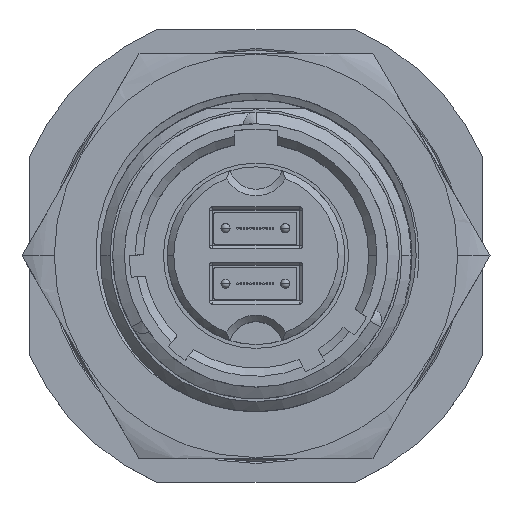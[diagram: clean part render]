
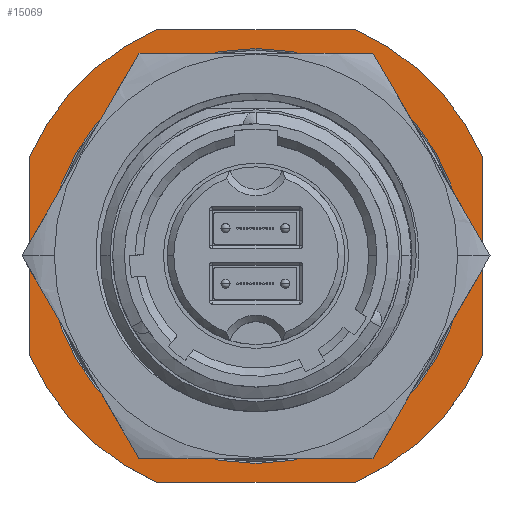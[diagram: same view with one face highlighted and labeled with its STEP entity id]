
A CAD part, top view. The second image highlights one B-rep face of the part: STEP entity #15069.
In plain terms, the highlighted planar face has unit normal (0, 0, 1).
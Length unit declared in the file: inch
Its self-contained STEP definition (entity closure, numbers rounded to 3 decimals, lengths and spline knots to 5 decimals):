
#491 = CIRCLE ( 'NONE', #16750, 0.75 ) ;
#1068 = ORIENTED_EDGE ( 'NONE', *, *, #10394, .F. ) ;
#1531 = CIRCLE ( 'NONE', #24158, 0.75 ) ;
#1766 = CARTESIAN_POINT ( 'NONE',  ( -0.687, 0.30088, -0.915 ) ) ;
#1817 = LINE ( 'NONE', #20841, #7323 ) ;
#1897 = CARTESIAN_POINT ( 'NONE',  ( -0.687, -0.30088, -0.915 ) ) ;
#3203 = VERTEX_POINT ( 'NONE', #15100 ) ;
#3383 = ORIENTED_EDGE ( 'NONE', *, *, #14875, .F. ) ;
#4247 = LINE ( 'NONE', #15939, #20625 ) ;
#4463 = DIRECTION ( 'NONE',  ( -1., 0., 0. ) ) ;
#4915 = ORIENTED_EDGE ( 'NONE', *, *, #22770, .F. ) ;
#5264 = ORIENTED_EDGE ( 'NONE', *, *, #10619, .F. ) ;
#5276 = CARTESIAN_POINT ( 'NONE',  ( -0.30088, -0.687, -0.915 ) ) ;
#5352 = CARTESIAN_POINT ( 'NONE',  ( 0., 0., -0.915 ) ) ;
#5605 = DIRECTION ( 'NONE',  ( -1., 0., 0. ) ) ;
#5991 = LINE ( 'NONE', #1766, #16949 ) ;
#6040 = FACE_OUTER_BOUND ( 'NONE', #14633, .T. ) ;
#6205 = AXIS2_PLACEMENT_3D ( 'NONE', #23334, #8186, #4463 ) ;
#6484 = VERTEX_POINT ( 'NONE', #1897 ) ;
#6755 = CARTESIAN_POINT ( 'NONE',  ( 0., 0., -0.915 ) ) ;
#7323 = VECTOR ( 'NONE', #9392, 39.37008 ) ;
#7427 = VERTEX_POINT ( 'NONE', #5276 ) ;
#8151 = DIRECTION ( 'NONE',  ( 0., 0., -1. ) ) ;
#8186 = DIRECTION ( 'NONE',  ( 0., 0., -1. ) ) ;
#8265 = CARTESIAN_POINT ( 'NONE',  ( 0., 0., -0.915 ) ) ;
#8463 = ORIENTED_EDGE ( 'NONE', *, *, #12351, .F. ) ;
#8828 = VERTEX_POINT ( 'NONE', #18805 ) ;
#9080 = CARTESIAN_POINT ( 'NONE',  ( 0.687, 0.30088, -0.915 ) ) ;
#9163 = CIRCLE ( 'NONE', #21077, 0.6297 ) ;
#9392 = DIRECTION ( 'NONE',  ( 1., 0., 0. ) ) ;
#9611 = VECTOR ( 'NONE', #20513, 39.37008 ) ;
#9720 = DIRECTION ( 'NONE',  ( 0., 1., 0. ) ) ;
#10378 = CARTESIAN_POINT ( 'NONE',  ( -0.6297, 0., -0.915 ) ) ;
#10394 = EDGE_CURVE ( 'NONE', #8828, #20359, #11583, .T. ) ;
#10539 = DIRECTION ( 'NONE',  ( 0., 0., -1. ) ) ;
#10619 = EDGE_CURVE ( 'NONE', #14859, #3203, #491, .T. ) ;
#10634 = EDGE_CURVE ( 'NONE', #18532, #14859, #11070, .T. ) ;
#10904 = AXIS2_PLACEMENT_3D ( 'NONE', #5352, #13324, #5605 ) ;
#11070 = LINE ( 'NONE', #9080, #9611 ) ;
#11583 = CIRCLE ( 'NONE', #19931, 0.75 ) ;
#11918 = CARTESIAN_POINT ( 'NONE',  ( 0.687, -0.30088, -0.915 ) ) ;
#12219 = DIRECTION ( 'NONE',  ( 0., 0., -1. ) ) ;
#12351 = EDGE_CURVE ( 'NONE', #20359, #21792, #1817, .T. ) ;
#12452 = CARTESIAN_POINT ( 'NONE',  ( 0., 0., -0.915 ) ) ;
#12564 = EDGE_CURVE ( 'NONE', #15175, #19831, #22805, .T. ) ;
#12782 = DIRECTION ( 'NONE',  ( -1., 0., 0. ) ) ;
#13324 = DIRECTION ( 'NONE',  ( 0., 0., -1. ) ) ;
#13668 = CARTESIAN_POINT ( 'NONE',  ( 0.6297, 0., -0.915 ) ) ;
#13736 = ORIENTED_EDGE ( 'NONE', *, *, #10634, .F. ) ;
#14306 = EDGE_CURVE ( 'NONE', #6484, #8828, #5991, .T. ) ;
#14536 = CIRCLE ( 'NONE', #6205, 0.75 ) ;
#14633 = EDGE_LOOP ( 'NONE', ( #1068, #17241, #4915, #22827, #5264, #13736, #3383, #8463 ) ) ;
#14859 = VERTEX_POINT ( 'NONE', #11918 ) ;
#14875 = EDGE_CURVE ( 'NONE', #21792, #18532, #14536, .T. ) ;
#14912 = DIRECTION ( 'NONE',  ( 0., 0., -1. ) ) ;
#14996 = CARTESIAN_POINT ( 'NONE',  ( -0.30088, 0.687, -0.915 ) ) ;
#15069 = ADVANCED_FACE ( 'NONE', ( #17965, #6040 ), #17465, .F. ) ;
#15100 = CARTESIAN_POINT ( 'NONE',  ( 0.30088, -0.687, -0.915 ) ) ;
#15175 = VERTEX_POINT ( 'NONE', #10378 ) ;
#15745 = ORIENTED_EDGE ( 'NONE', *, *, #12564, .T. ) ;
#15939 = CARTESIAN_POINT ( 'NONE',  ( 0.30088, -0.687, -0.915 ) ) ;
#16075 = DIRECTION ( 'NONE',  ( -1., 0., 0. ) ) ;
#16750 = AXIS2_PLACEMENT_3D ( 'NONE', #24352, #14912, #18517 ) ;
#16949 = VECTOR ( 'NONE', #9720, 39.37008 ) ;
#17241 = ORIENTED_EDGE ( 'NONE', *, *, #14306, .F. ) ;
#17465 = PLANE ( 'NONE',  #24431 ) ;
#17929 = EDGE_CURVE ( 'NONE', #3203, #7427, #4247, .T. ) ;
#17965 = FACE_BOUND ( 'NONE', #22214, .T. ) ;
#18517 = DIRECTION ( 'NONE',  ( -1., 0., 0. ) ) ;
#18532 = VERTEX_POINT ( 'NONE', #23669 ) ;
#18805 = CARTESIAN_POINT ( 'NONE',  ( -0.687, 0.30088, -0.915 ) ) ;
#18980 = EDGE_CURVE ( 'NONE', #19831, #15175, #9163, .T. ) ;
#19831 = VERTEX_POINT ( 'NONE', #13668 ) ;
#19931 = AXIS2_PLACEMENT_3D ( 'NONE', #23829, #10539, #12782 ) ;
#20028 = DIRECTION ( 'NONE',  ( -1., 0., 0. ) ) ;
#20149 = DIRECTION ( 'NONE',  ( 0., 0., -1. ) ) ;
#20359 = VERTEX_POINT ( 'NONE', #14996 ) ;
#20513 = DIRECTION ( 'NONE',  ( 0., -1., 0. ) ) ;
#20625 = VECTOR ( 'NONE', #23376, 39.37008 ) ;
#20693 = CARTESIAN_POINT ( 'NONE',  ( 0.30088, 0.687, -0.915 ) ) ;
#20841 = CARTESIAN_POINT ( 'NONE',  ( 0.30088, 0.687, -0.915 ) ) ;
#21077 = AXIS2_PLACEMENT_3D ( 'NONE', #6755, #12219, #16075 ) ;
#21571 = DIRECTION ( 'NONE',  ( -1., 0., 0. ) ) ;
#21792 = VERTEX_POINT ( 'NONE', #20693 ) ;
#22214 = EDGE_LOOP ( 'NONE', ( #15745, #23193 ) ) ;
#22770 = EDGE_CURVE ( 'NONE', #7427, #6484, #1531, .T. ) ;
#22805 = CIRCLE ( 'NONE', #10904, 0.6297 ) ;
#22827 = ORIENTED_EDGE ( 'NONE', *, *, #17929, .F. ) ;
#23193 = ORIENTED_EDGE ( 'NONE', *, *, #18980, .T. ) ;
#23334 = CARTESIAN_POINT ( 'NONE',  ( 0., 0., -0.915 ) ) ;
#23376 = DIRECTION ( 'NONE',  ( -1., 0., 0. ) ) ;
#23669 = CARTESIAN_POINT ( 'NONE',  ( 0.687, 0.30088, -0.915 ) ) ;
#23829 = CARTESIAN_POINT ( 'NONE',  ( 0., 0., -0.915 ) ) ;
#24158 = AXIS2_PLACEMENT_3D ( 'NONE', #12452, #20149, #20028 ) ;
#24352 = CARTESIAN_POINT ( 'NONE',  ( 0., 0., -0.915 ) ) ;
#24431 = AXIS2_PLACEMENT_3D ( 'NONE', #8265, #8151, #21571 ) ;
